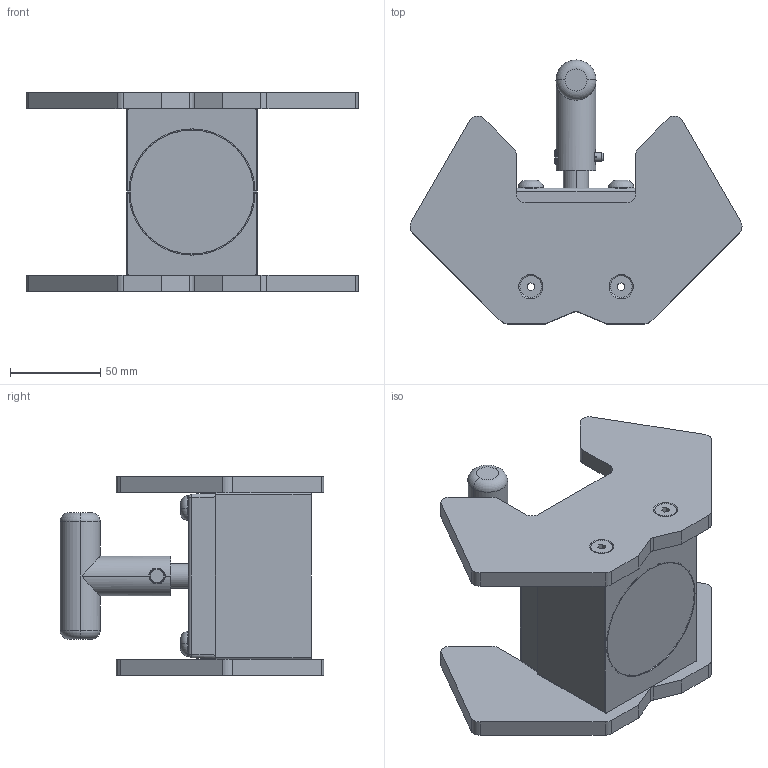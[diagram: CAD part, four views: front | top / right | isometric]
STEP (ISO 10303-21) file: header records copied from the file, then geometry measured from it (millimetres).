
FILE_DESCRIPTION (( 'STEP AP203' ), '1' );
FILE_NAME ('8000450_p.STEP', '2013-07-02T21:39:09', ( '' ), ( '' ), 'SwSTEP 2.0', 'SolidWorks 2010', '' );
FILE_SCHEMA (( 'CONFIG_CONTROL_DESIGN' ));
Length unit declared in the file: millimetre
Products named in the file (1): 8000450_p
Bounding box: 183.56 x 145.9 x 110 mm (x, y, z)
Surface area: 102431.7 mm2 (no closed solid volume)
Topology: 0 solids, 18 shells, 251 faces, 713 edges, 475 vertices
Faces by surface type: plane 109, cylinder 65, cone 58, torus 14, sphere 4, bspline 1
Entity records: 9037 total; most frequent: CARTESIAN_POINT 2497, DIRECTION 1370, ORIENTED_EDGE 1247, EDGE_CURVE 712, AXIS2_PLACEMENT_3D 509, VERTEX_POINT 475, VECTOR 352, LINE 352
